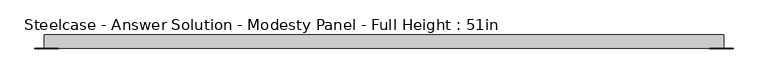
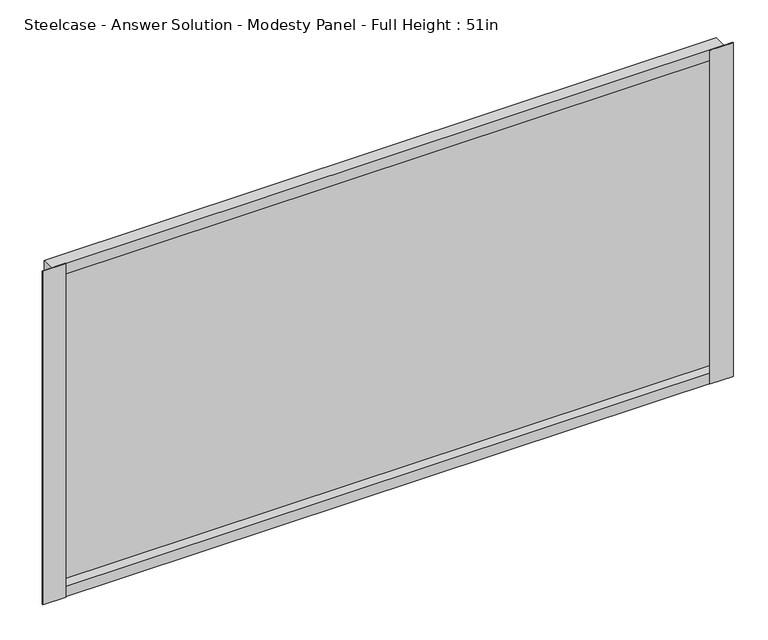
"""IFC4 building model written with IfcOpenShell, lengths in millimetres: furniture geometry, Steelcase - Answer Solution - Modesty Panel - Full Height : 51in."""

import ifcopenshell
import ifcopenshell.guid

model = None  # the IFC model being written
_history = None  # IfcOwnerHistory: only IFC2X3 demands one
_inside = {}  # id of a spatial element -> (the spatial element, [elements in it])
_under = {}  # id of a project, library or spatial element -> (it, [spatial elements below it])
_declared = {}  # id of a project -> (the project, [libraries it declares])
_typed = {}  # id of a type object -> (the type object, [elements of that type])
_made_of = {}  # id of a material, layer set ... -> (it, [elements and type objects made of it])


def new_model(schema):
    """Start an empty IFC model of exactly this schema.

    Asked for "IFC4X3", IfcOpenShell would pick the latest addendum, in which some entities
    have other attributes; the version numbers below select the first issue.
    IFC2X3 requires an IfcOwnerHistory on every rooted entity: one is made here for all.
    """
    global model, _history
    if schema == "IFC4X3":
        model = ifcopenshell.file(schema_version=(4, 3, 0, 0))
    else:
        model = ifcopenshell.file(schema=schema)
    _inside.clear()
    _under.clear()
    _declared.clear()
    _typed.clear()
    _made_of.clear()
    _history = None
    if model.schema == "IFC2X3":
        org = make("IfcOrganization", Name="unknown")
        user = make(
            "IfcPersonAndOrganization",
            ThePerson=make("IfcPerson", FamilyName="unknown"),
            TheOrganization=org,
        )
        app = make(
            "IfcApplication",
            ApplicationDeveloper=org,
            Version="unknown",
            ApplicationFullName="unknown",
            ApplicationIdentifier="unknown",
        )
        _history = make(
            "IfcOwnerHistory",
            OwningUser=user,
            OwningApplication=app,
            ChangeAction="ADDED",
            CreationDate=0,
        )
    return model


def make(cls, **values):
    """One entity of the class cls with the attributes given. An attribute that is None is left unset."""
    return model.create_entity(
        cls, **{name: value for name, value in values.items() if value is not None}
    )


def rooted(cls, **values):
    """An entity with a GlobalId (a new one), such as an element, a storey or a relation."""
    return make(cls, GlobalId=ifcopenshell.guid.new(), OwnerHistory=_history, **values)


def si_unit(unit_type, name, prefix=None):
    """IfcSIUnit, for example si_unit("LENGTHUNIT", "METRE", prefix="MILLI")."""
    return make("IfcSIUnit", UnitType=unit_type, Prefix=prefix, Name=name)


def assignment(units):
    """IfcUnitAssignment: the units of a project."""
    return None if units is None else make("IfcUnitAssignment", Units=units)


def point(xyz):
    """IfcCartesianPoint."""
    return None if xyz is None else make("IfcCartesianPoint", Coordinates=xyz)


def direction(xyz):
    """IfcDirection."""
    return None if xyz is None else make("IfcDirection", DirectionRatios=xyz)


def frame(location, z_axis=None, x_axis=None):
    """IfcAxis2Placement3D, a coordinate frame: its origin and axes. An axis left out is left unset."""
    return make(
        "IfcAxis2Placement3D",
        Location=point(location),
        Axis=direction(z_axis),
        RefDirection=direction(x_axis),
    )


def origin():
    """The frame at (0, 0, 0) with its axes left unset."""
    return frame((0.0, 0.0, 0.0))


def place(relative_to, where):
    """IfcLocalPlacement: puts the frame where relative to a parent placement (None: the world)."""
    return make(
        "IfcLocalPlacement", PlacementRelTo=relative_to, RelativePlacement=where
    )


def context(
    kind, dimensions, precision=None, world=None, true_north=None, identifier=None
):
    """IfcGeometricRepresentationContext, for example the 3D "Model" context."""
    return make(
        "IfcGeometricRepresentationContext",
        ContextIdentifier=identifier,
        ContextType=kind,
        CoordinateSpaceDimension=dimensions,
        Precision=precision,
        WorldCoordinateSystem=world,
        TrueNorth=true_north,
    )


def project(units=None, contexts=None):
    """IfcProject with its units and contexts."""
    return rooted(
        "IfcProject",
        Name="project",
        RepresentationContexts=contexts,
        UnitsInContext=assignment(units),
    )


def spatial(cls, under=None, at=None, **own):
    """A site, building, storey or space (cls), placed at a placement, below another one or the project."""
    s = rooted(cls, ObjectPlacement=at, **own)
    if under is not None:
        _under.setdefault(under.id(), (under, []))[1].append(s)
    return s


def polyline(points):
    """IfcPolyline through the points."""
    return make("IfcPolyline", Points=[point(p) for p in points])


def outline(outer, holes=None, kind="AREA"):
    """IfcArbitraryClosedProfileDef: a profile drawn as a closed curve; with holes, ...WithVoids."""
    if holes is None:
        return make("IfcArbitraryClosedProfileDef", ProfileType=kind, OuterCurve=outer)
    return make(
        "IfcArbitraryProfileDefWithVoids",
        ProfileType=kind,
        OuterCurve=outer,
        InnerCurves=holes,
    )


def extrude(swept, where, along, depth):
    """IfcExtrudedAreaSolid: the profile swept, set in the frame where, extruded along a direction by depth."""
    return make(
        "IfcExtrudedAreaSolid",
        SweptArea=swept,
        Position=where,
        ExtrudedDirection=direction(along),
        Depth=depth,
    )


def faces_of(points, faces, orient=None, outer=None):
    """IfcFace entities. A face is a list of loops; a loop is a list of indices into points, from 0.

    orient and outer hold one flag for each loop. By default every Orientation is true, the
    first loop of a face is its IfcFaceOuterBound and the others are IfcFaceBound.
    """
    made = []
    for i, loops in enumerate(faces):
        bounds = []
        for j, loop in enumerate(loops):
            is_outer = j == 0 if outer is None else outer[i][j]
            bounds.append(
                make(
                    "IfcFaceOuterBound" if is_outer else "IfcFaceBound",
                    Bound=make("IfcPolyLoop", Polygon=[points[k] for k in loop]),
                    Orientation=True if orient is None else orient[i][j],
                )
            )
        made.append(make("IfcFace", Bounds=bounds))
    return made


def faceted_brep(points, faces, orient=None, outer=None, voids=None):
    """IfcFacetedBrep: a solid bounded by flat faces; with voids (closed shells), ...WithVoids."""
    shared = [point(p) for p in points]
    hull = make("IfcClosedShell", CfsFaces=faces_of(shared, faces, orient, outer))
    if voids is None:
        return make("IfcFacetedBrep", Outer=hull)
    return make(
        "IfcFacetedBrepWithVoids",
        Outer=hull,
        Voids=[
            make(cls, CfsFaces=faces_of(shared, fs, o, b)) for cls, fs, o, b in voids
        ],
    )


def shape(context_of_items, identifier, shape_type, items):
    """IfcShapeRepresentation: the items that make up one representation, for example the "Body"."""
    return make(
        "IfcShapeRepresentation",
        ContextOfItems=context_of_items,
        RepresentationIdentifier=identifier,
        RepresentationType=shape_type,
        Items=items,
    )


def source(mapping_origin, context_of_items, identifier, shape_type, items):
    """IfcRepresentationMap: a shape defined once, which mapped items show again and again."""
    return make(
        "IfcRepresentationMap",
        MappingOrigin=mapping_origin,
        MappedRepresentation=shape(context_of_items, identifier, shape_type, items),
    )


def transform(
    local_origin,
    x_axis=None,
    y_axis=None,
    z_axis=None,
    scale=None,
    scale2=None,
    scale3=None,
    uniform=True,
):
    """IfcCartesianTransformationOperator3D, or its non-uniform kind. x_axis, y_axis, z_axis: its Axis1, 2, 3."""
    if uniform:
        return make(
            "IfcCartesianTransformationOperator3D",
            Axis1=direction(x_axis),
            Axis2=direction(y_axis),
            LocalOrigin=point(local_origin),
            Scale=scale,
            Axis3=direction(z_axis),
        )
    return make(
        "IfcCartesianTransformationOperator3DnonUniform",
        Axis1=direction(x_axis),
        Axis2=direction(y_axis),
        LocalOrigin=point(local_origin),
        Scale=scale,
        Axis3=direction(z_axis),
        Scale2=scale2,
        Scale3=scale3,
    )


def mapped(mapping_source, mapping_target):
    """IfcMappedItem: shows the shape of a source again, moved by a transform."""
    return make(
        "IfcMappedItem", MappingSource=mapping_source, MappingTarget=mapping_target
    )


def made_of(thing, what):
    """Note that an element or type object is made of a material, layer set ...; save() writes the relation."""
    if what is not None:
        _made_of.setdefault(what.id(), (what, []))[1].append(thing)
    return thing


def element(
    cls,
    number,
    at=None,
    inside=None,
    cuts=None,
    type_object=None,
    material=None,
    context=None,
    identifier="Body",
    shape_type=None,
    held_by="IfcProductDefinitionShape",
    body=None,
    shapes=None,
    **own,
):
    """One element of the class cls, such as IfcWall. Its Tag is "e" and its number.

    at: its placement. inside: the storey or other place that contains it. cuts: it is an
    opening in that element (IfcRelVoidsElement). A single representation is given by context,
    identifier, shape_type and body (its items); several are given by shapes. held_by: the class
    of the entity that holds the representations. save() writes the other relations.
    """
    e = rooted(cls, Tag="e%d" % number, ObjectPlacement=at, **own)
    if body is not None:
        shapes = [shape(context, identifier, shape_type, body)]
    if shapes is not None:
        e.Representation = make(held_by, Representations=shapes)
    if inside is not None:
        _inside.setdefault(inside.id(), (inside, []))[1].append(e)
    if cuts is not None:
        rooted(
            "IfcRelVoidsElement", RelatingBuildingElement=cuts, RelatedOpeningElement=e
        )
    if type_object is not None:
        _typed.setdefault(type_object.id(), (type_object, []))[1].append(e)
    return made_of(e, material)


def aggregate(whole, parts):
    """IfcRelAggregates: a whole, such as a stair, and the parts it consists of."""
    return rooted("IfcRelAggregates", RelatingObject=whole, RelatedObjects=parts)


def save(model, path):
    """Write the relations noted so far, then the file.

    IfcRelAggregates (storeys below a building ...), IfcRelContainedInSpatialStructure (elements
    in a storey), IfcRelDefinesByType, IfcRelAssociatesMaterial and IfcRelDeclares: one each for
    every whole, place, type object, material and project.
    """
    for whole, parts in _under.values():
        aggregate(whole, parts)
    for where, things in _inside.values():
        rooted(
            "IfcRelContainedInSpatialStructure",
            RelatedElements=things,
            RelatingStructure=where,
        )
    for kind, things in _typed.values():
        rooted("IfcRelDefinesByType", RelatedObjects=things, RelatingType=kind)
    for what, things in _made_of.values():
        rooted("IfcRelAssociatesMaterial", RelatedObjects=things, RelatingMaterial=what)
    for by, libraries in _declared.values():
        rooted("IfcRelDeclares", RelatingContext=by, RelatedDefinitions=libraries)
    model.write(path)


def steelcase_answer_solution_modesty_panel_full_height_51in_d566753e(model_context):
    return source(origin(), model_context, "Body", "SolidModel", [
        extrude(outline(polyline([(1838.9400478, -14.2668826), (1838.9400478, -15.0593624), (1794.5248254, -15.0593624), (1794.5248254, -14.2668826), (1838.9400478, -14.2668826)])), frame((0.0, 0.0, 17.653), z_axis=(0.0, 0.0, 1.0), x_axis=(1.0, 0.0, 0.0)), (0.0, 0.0, 1.0), 678.18),
        extrude(outline(polyline([(556.9673392, -14.2668826), (556.9673392, -15.0593624), (512.5520826, -15.0593624), (512.5520826, -14.2668826), (556.9673392, -14.2668826)])), frame((0.0, 0.0, 17.653), z_axis=(0.0, 0.0, 1.0), x_axis=(1.0, 0.0, 0.0)), (0.0, 0.0, 1.0), 678.18),
        faceted_brep([(530.0780827, 10.9045177, 17.653), (530.0780827, -14.2668826, 17.653), (530.0780827, -14.2668826, 695.833), (530.0780827, 10.9045177, 695.833), (1821.4140827, -14.2668826, 17.653), (1821.4140827, 10.9045177, 17.653), (1821.4140827, 10.9045177, 695.833), (1821.4140827, -14.2668826, 695.833), (1820.6216165, 4.7831174, 39.243), (530.8705628, 4.7831174, 39.243), (530.8705628, -14.2668826, 39.243), (1820.6216165, -14.2668826, 39.243), (530.8705628, -14.2668826, 674.243), (1820.6216165, -14.2668826, 674.243), (530.8705628, 4.7831174, 674.243), (1820.6216165, 4.7831174, 674.243)], [[[0, 1, 2, 3]], [[4, 5, 6, 7]], [[8, 9, 10, 11]], [[0, 3, 6, 5]], [[4, 1, 0, 5]], [[2, 1, 4, 7], [10, 12, 13, 11]], [[3, 2, 7, 6]], [[14, 15, 13, 12]], [[9, 8, 15, 14]], [[12, 10, 9, 14]], [[11, 13, 15, 8]]]),
    ])


if __name__ == "__main__":
    model = new_model("IFC4")
    model_context = context("Model", 3, world=origin())
    ifc_project = project(units=[si_unit("LENGTHUNIT", "METRE", prefix="MILLI")], contexts=[model_context])
    site = spatial("IfcSite", under=ifc_project)
    building = spatial("IfcBuilding", under=site)
    placement = place(None, origin())
    steelcase_answer_solution_modesty_panel_full_height_51in_shape = steelcase_answer_solution_modesty_panel_full_height_51in_d566753e(model_context)
    element("IfcFurniture", 1, ObjectType="Steelcase - Answer Solution - Modesty Panel - Full Height : 51in", at=placement, inside=building, context=model_context, shape_type="MappedRepresentation", body=[
        mapped(steelcase_answer_solution_modesty_panel_full_height_51in_shape, transform((0.0, 0.0, 0.0), x_axis=(1.0, 0.0, 0.0), y_axis=(0.0, 1.0, 0.0), z_axis=(0.0, 0.0, 1.0))),
    ])
    save(model, "model.ifc")
